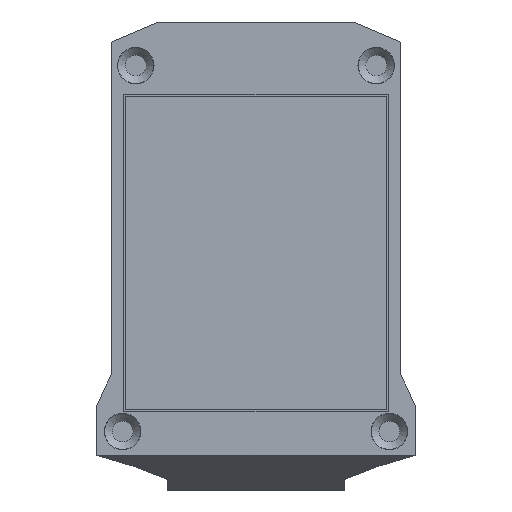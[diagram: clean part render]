
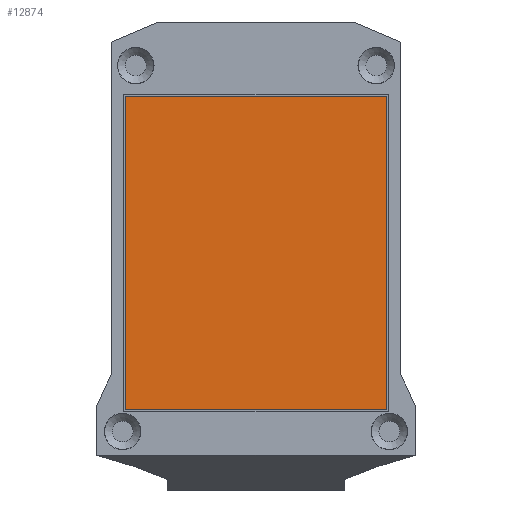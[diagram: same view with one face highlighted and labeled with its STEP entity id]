
A CAD part, top view. The second image highlights one B-rep face of the part: STEP entity #12874.
In plain terms, the highlighted planar face has unit normal (0, 0, 1).
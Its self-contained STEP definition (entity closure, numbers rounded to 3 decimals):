
#12560 = VERTEX_POINT('',#12561);
#12561 = CARTESIAN_POINT('',(-15.,104.,6.3));
#12568 = PLANE('',#12569);
#12569 = AXIS2_PLACEMENT_3D('',#12570,#12571,#12572);
#12570 = CARTESIAN_POINT('',(-15.,104.,4.9));
#12571 = DIRECTION('',(1.,0.,-0.));
#12572 = DIRECTION('',(0.,0.,1.));
#12580 = PLANE('',#12581);
#12581 = AXIS2_PLACEMENT_3D('',#12582,#12583,#12584);
#12582 = CARTESIAN_POINT('',(-15.,104.,4.9));
#12583 = DIRECTION('',(-0.,1.,0.));
#12584 = DIRECTION('',(0.,0.,1.));
#12621 = VERTEX_POINT('',#12622);
#12622 = CARTESIAN_POINT('',(-15.,140.,6.3));
#12636 = PLANE('',#12637);
#12637 = AXIS2_PLACEMENT_3D('',#12638,#12639,#12640);
#12638 = CARTESIAN_POINT('',(-15.,140.,4.9));
#12639 = DIRECTION('',(-0.,1.,0.));
#12640 = DIRECTION('',(0.,0.,1.));
#12648 = EDGE_CURVE('',#12560,#12621,#12649,.T.);
#12649 = SURFACE_CURVE('',#12650,(#12654,#12661),.PCURVE_S1.);
#12650 = LINE('',#12651,#12652);
#12651 = CARTESIAN_POINT('',(-15.,104.,6.3));
#12652 = VECTOR('',#12653,1.);
#12653 = DIRECTION('',(-0.,1.,0.));
#12654 = PCURVE('',#12568,#12655);
#12655 = DEFINITIONAL_REPRESENTATION('',(#12656),#12660);
#12656 = LINE('',#12657,#12658);
#12657 = CARTESIAN_POINT('',(1.4,0.));
#12658 = VECTOR('',#12659,1.);
#12659 = DIRECTION('',(0.,-1.));
#12660 = ( GEOMETRIC_REPRESENTATION_CONTEXT(2) 
PARAMETRIC_REPRESENTATION_CONTEXT() REPRESENTATION_CONTEXT('2D SPACE',''
  ) );
#12661 = PCURVE('',#12662,#12667);
#12662 = PLANE('',#12663);
#12663 = AXIS2_PLACEMENT_3D('',#12664,#12665,#12666);
#12664 = CARTESIAN_POINT('',(-15.,104.,6.3));
#12665 = DIRECTION('',(0.,0.,1.));
#12666 = DIRECTION('',(1.,0.,-0.));
#12667 = DEFINITIONAL_REPRESENTATION('',(#12668),#12672);
#12668 = LINE('',#12669,#12670);
#12669 = CARTESIAN_POINT('',(0.,0.));
#12670 = VECTOR('',#12671,1.);
#12671 = DIRECTION('',(0.,1.));
#12672 = ( GEOMETRIC_REPRESENTATION_CONTEXT(2) 
PARAMETRIC_REPRESENTATION_CONTEXT() REPRESENTATION_CONTEXT('2D SPACE',''
  ) );
#12680 = VERTEX_POINT('',#12681);
#12681 = CARTESIAN_POINT('',(15.,104.,6.3));
#12688 = PLANE('',#12689);
#12689 = AXIS2_PLACEMENT_3D('',#12690,#12691,#12692);
#12690 = CARTESIAN_POINT('',(15.,104.,4.9));
#12691 = DIRECTION('',(1.,0.,-0.));
#12692 = DIRECTION('',(0.,0.,1.));
#12731 = VERTEX_POINT('',#12732);
#12732 = CARTESIAN_POINT('',(15.,140.,6.3));
#12753 = EDGE_CURVE('',#12680,#12731,#12754,.T.);
#12754 = SURFACE_CURVE('',#12755,(#12759,#12766),.PCURVE_S1.);
#12755 = LINE('',#12756,#12757);
#12756 = CARTESIAN_POINT('',(15.,104.,6.3));
#12757 = VECTOR('',#12758,1.);
#12758 = DIRECTION('',(-0.,1.,0.));
#12759 = PCURVE('',#12688,#12760);
#12760 = DEFINITIONAL_REPRESENTATION('',(#12761),#12765);
#12761 = LINE('',#12762,#12763);
#12762 = CARTESIAN_POINT('',(1.4,0.));
#12763 = VECTOR('',#12764,1.);
#12764 = DIRECTION('',(0.,-1.));
#12765 = ( GEOMETRIC_REPRESENTATION_CONTEXT(2) 
PARAMETRIC_REPRESENTATION_CONTEXT() REPRESENTATION_CONTEXT('2D SPACE',''
  ) );
#12766 = PCURVE('',#12662,#12767);
#12767 = DEFINITIONAL_REPRESENTATION('',(#12768),#12772);
#12768 = LINE('',#12769,#12770);
#12769 = CARTESIAN_POINT('',(30.,0.));
#12770 = VECTOR('',#12771,1.);
#12771 = DIRECTION('',(0.,1.));
#12772 = ( GEOMETRIC_REPRESENTATION_CONTEXT(2) 
PARAMETRIC_REPRESENTATION_CONTEXT() REPRESENTATION_CONTEXT('2D SPACE',''
  ) );
#12799 = EDGE_CURVE('',#12560,#12680,#12800,.T.);
#12800 = SURFACE_CURVE('',#12801,(#12805,#12812),.PCURVE_S1.);
#12801 = LINE('',#12802,#12803);
#12802 = CARTESIAN_POINT('',(-15.,104.,6.3));
#12803 = VECTOR('',#12804,1.);
#12804 = DIRECTION('',(1.,0.,-0.));
#12805 = PCURVE('',#12580,#12806);
#12806 = DEFINITIONAL_REPRESENTATION('',(#12807),#12811);
#12807 = LINE('',#12808,#12809);
#12808 = CARTESIAN_POINT('',(1.4,0.));
#12809 = VECTOR('',#12810,1.);
#12810 = DIRECTION('',(0.,1.));
#12811 = ( GEOMETRIC_REPRESENTATION_CONTEXT(2) 
PARAMETRIC_REPRESENTATION_CONTEXT() REPRESENTATION_CONTEXT('2D SPACE',''
  ) );
#12812 = PCURVE('',#12662,#12813);
#12813 = DEFINITIONAL_REPRESENTATION('',(#12814),#12818);
#12814 = LINE('',#12815,#12816);
#12815 = CARTESIAN_POINT('',(0.,0.));
#12816 = VECTOR('',#12817,1.);
#12817 = DIRECTION('',(1.,0.));
#12818 = ( GEOMETRIC_REPRESENTATION_CONTEXT(2) 
PARAMETRIC_REPRESENTATION_CONTEXT() REPRESENTATION_CONTEXT('2D SPACE',''
  ) );
#12846 = EDGE_CURVE('',#12621,#12731,#12847,.T.);
#12847 = SURFACE_CURVE('',#12848,(#12852,#12859),.PCURVE_S1.);
#12848 = LINE('',#12849,#12850);
#12849 = CARTESIAN_POINT('',(-15.,140.,6.3));
#12850 = VECTOR('',#12851,1.);
#12851 = DIRECTION('',(1.,0.,-0.));
#12852 = PCURVE('',#12636,#12853);
#12853 = DEFINITIONAL_REPRESENTATION('',(#12854),#12858);
#12854 = LINE('',#12855,#12856);
#12855 = CARTESIAN_POINT('',(1.4,0.));
#12856 = VECTOR('',#12857,1.);
#12857 = DIRECTION('',(0.,1.));
#12858 = ( GEOMETRIC_REPRESENTATION_CONTEXT(2) 
PARAMETRIC_REPRESENTATION_CONTEXT() REPRESENTATION_CONTEXT('2D SPACE',''
  ) );
#12859 = PCURVE('',#12662,#12860);
#12860 = DEFINITIONAL_REPRESENTATION('',(#12861),#12865);
#12861 = LINE('',#12862,#12863);
#12862 = CARTESIAN_POINT('',(0.,36.));
#12863 = VECTOR('',#12864,1.);
#12864 = DIRECTION('',(1.,0.));
#12865 = ( GEOMETRIC_REPRESENTATION_CONTEXT(2) 
PARAMETRIC_REPRESENTATION_CONTEXT() REPRESENTATION_CONTEXT('2D SPACE',''
  ) );
#12874 = ADVANCED_FACE('',(#12875),#12662,.T.);
#12875 = FACE_BOUND('',#12876,.T.);
#12876 = EDGE_LOOP('',(#12877,#12878,#12879,#12880));
#12877 = ORIENTED_EDGE('',*,*,#12648,.F.);
#12878 = ORIENTED_EDGE('',*,*,#12799,.T.);
#12879 = ORIENTED_EDGE('',*,*,#12753,.T.);
#12880 = ORIENTED_EDGE('',*,*,#12846,.F.);
